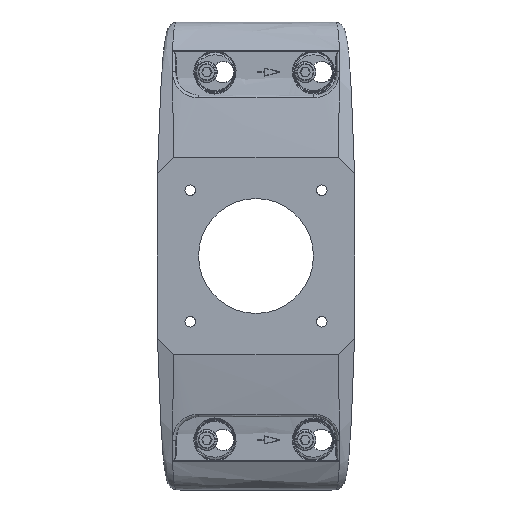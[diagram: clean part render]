
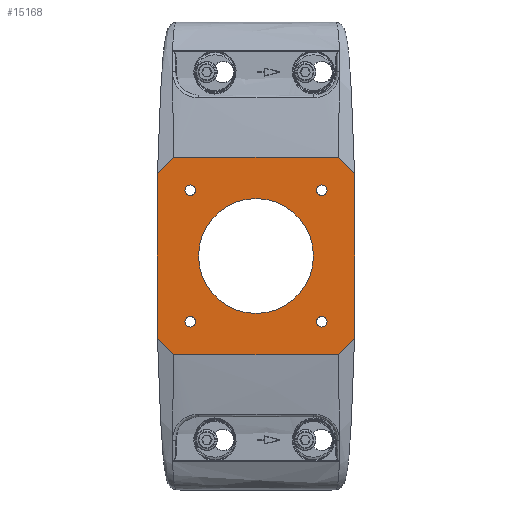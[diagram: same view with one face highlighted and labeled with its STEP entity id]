
A CAD part, front view. The second image highlights one B-rep face of the part: STEP entity #15168.
In plain terms, the highlighted planar face has unit normal (0, -1, 0).
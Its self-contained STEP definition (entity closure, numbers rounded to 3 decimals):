
#2119=DIRECTION('',(-0.707,0.,0.707));
#2120=VECTOR('',#2119,14.142);
#2121=CARTESIAN_POINT('',(-50.,0.,-60.));
#2122=LINE('',#2121,#2120);
#2126=DIRECTION('',(0.,0.,1.));
#2127=VECTOR('',#2126,100.);
#2128=CARTESIAN_POINT('',(-60.,0.,-50.));
#2129=LINE('',#2128,#2127);
#2133=DIRECTION('',(0.707,0.,0.707));
#2134=VECTOR('',#2133,14.142);
#2135=CARTESIAN_POINT('',(-60.,0.,50.));
#2136=LINE('',#2135,#2134);
#2140=DIRECTION('',(1.,0.,0.));
#2141=VECTOR('',#2140,100.);
#2142=CARTESIAN_POINT('',(-50.,0.,60.));
#2143=LINE('',#2142,#2141);
#2147=DIRECTION('',(0.707,0.,-0.707));
#2148=VECTOR('',#2147,14.142);
#2149=CARTESIAN_POINT('',(50.,0.,60.));
#2150=LINE('',#2149,#2148);
#2154=DIRECTION('',(0.,0.,-1.));
#2155=VECTOR('',#2154,100.);
#2156=CARTESIAN_POINT('',(60.,0.,50.));
#2157=LINE('',#2156,#2155);
#2161=DIRECTION('',(-0.707,0.,-0.707));
#2162=VECTOR('',#2161,14.142);
#2163=CARTESIAN_POINT('',(60.,0.,-50.));
#2164=LINE('',#2163,#2162);
#2168=DIRECTION('',(-1.,0.,0.));
#2169=VECTOR('',#2168,100.);
#2170=CARTESIAN_POINT('',(50.,0.,-60.));
#2171=LINE('',#2170,#2169);
#2175=CARTESIAN_POINT('',(-40.,0.,40.));
#2176=DIRECTION('',(0.,-1.,0.));
#2177=DIRECTION('',(0.,0.,-1.));
#2178=AXIS2_PLACEMENT_3D('',#2175,#2176,#2177);
#2183=CARTESIAN_POINT('',(-40.,0.,40.));
#2184=DIRECTION('',(0.,-1.,0.));
#2185=DIRECTION('',(0.,0.,1.));
#2186=AXIS2_PLACEMENT_3D('',#2183,#2184,#2185);
#2191=CARTESIAN_POINT('',(40.,0.,40.));
#2192=DIRECTION('',(0.,-1.,0.));
#2193=DIRECTION('',(0.,0.,-1.));
#2194=AXIS2_PLACEMENT_3D('',#2191,#2192,#2193);
#2199=CARTESIAN_POINT('',(40.,0.,40.));
#2200=DIRECTION('',(0.,-1.,0.));
#2201=DIRECTION('',(0.,0.,1.));
#2202=AXIS2_PLACEMENT_3D('',#2199,#2200,#2201);
#2207=CARTESIAN_POINT('',(-40.,0.,-40.));
#2208=DIRECTION('',(0.,-1.,0.));
#2209=DIRECTION('',(0.,0.,-1.));
#2210=AXIS2_PLACEMENT_3D('',#2207,#2208,#2209);
#2215=CARTESIAN_POINT('',(-40.,0.,-40.));
#2216=DIRECTION('',(0.,-1.,0.));
#2217=DIRECTION('',(0.,0.,1.));
#2218=AXIS2_PLACEMENT_3D('',#2215,#2216,#2217);
#2223=CARTESIAN_POINT('',(40.,0.,-40.));
#2224=DIRECTION('',(0.,-1.,0.));
#2225=DIRECTION('',(0.,0.,-1.));
#2226=AXIS2_PLACEMENT_3D('',#2223,#2224,#2225);
#2231=CARTESIAN_POINT('',(40.,0.,-40.));
#2232=DIRECTION('',(0.,-1.,0.));
#2233=DIRECTION('',(0.,0.,1.));
#2234=AXIS2_PLACEMENT_3D('',#2231,#2232,#2233);
#2239=CARTESIAN_POINT('',(0.,0.,0.));
#2240=DIRECTION('',(0.,-1.,0.));
#2241=DIRECTION('',(0.,0.,-1.));
#2242=AXIS2_PLACEMENT_3D('',#2239,#2240,#2241);
#2247=CARTESIAN_POINT('',(0.,0.,0.));
#2248=DIRECTION('',(0.,-1.,0.));
#2249=DIRECTION('',(0.,0.,1.));
#2250=AXIS2_PLACEMENT_3D('',#2247,#2248,#2249);
#13702=CARTESIAN_POINT('',(50.,0.,60.));
#13703=CARTESIAN_POINT('',(60.,0.,50.));
#13704=VERTEX_POINT('',#13702);
#13705=VERTEX_POINT('',#13703);
#13706=CARTESIAN_POINT('',(60.,0.,-50.));
#13707=VERTEX_POINT('',#13706);
#13708=CARTESIAN_POINT('',(50.,0.,-60.));
#13709=VERTEX_POINT('',#13708);
#13710=CARTESIAN_POINT('',(-50.,0.,-60.));
#13711=VERTEX_POINT('',#13710);
#13712=CARTESIAN_POINT('',(-60.,0.,-50.));
#13713=VERTEX_POINT('',#13712);
#13714=CARTESIAN_POINT('',(-60.,0.,50.));
#13715=VERTEX_POINT('',#13714);
#13716=CARTESIAN_POINT('',(-50.,0.,60.));
#13717=VERTEX_POINT('',#13716);
#13737=CARTESIAN_POINT('',(-40.,0.,36.75));
#13738=CARTESIAN_POINT('',(-40.,0.,43.25));
#13739=VERTEX_POINT('',#13737);
#13740=VERTEX_POINT('',#13738);
#13745=CARTESIAN_POINT('',(40.,0.,36.75));
#13746=CARTESIAN_POINT('',(40.,0.,43.25));
#13747=VERTEX_POINT('',#13745);
#13748=VERTEX_POINT('',#13746);
#13753=CARTESIAN_POINT('',(-40.,0.,-43.25));
#13754=CARTESIAN_POINT('',(-40.,0.,-36.75));
#13755=VERTEX_POINT('',#13753);
#13756=VERTEX_POINT('',#13754);
#13761=CARTESIAN_POINT('',(40.,0.,-43.25));
#13762=CARTESIAN_POINT('',(40.,0.,-36.75));
#13763=VERTEX_POINT('',#13761);
#13764=VERTEX_POINT('',#13762);
#13769=CARTESIAN_POINT('',(0.,0.,-35.));
#13770=CARTESIAN_POINT('',(0.,0.,35.));
#13771=VERTEX_POINT('',#13769);
#13772=VERTEX_POINT('',#13770);
#15115=CARTESIAN_POINT('',(60.,0.,0.));
#15116=DIRECTION('',(0.,1.,0.));
#15117=DIRECTION('',(-1.,0.,0.));
#15118=AXIS2_PLACEMENT_3D('',#15115,#15116,#15117);
#15119=PLANE('',#15118);
#15121=ORIENTED_EDGE('',*,*,#15120,.T.);
#15123=ORIENTED_EDGE('',*,*,#15122,.T.);
#15125=ORIENTED_EDGE('',*,*,#15124,.T.);
#15127=ORIENTED_EDGE('',*,*,#15126,.T.);
#15129=ORIENTED_EDGE('',*,*,#15128,.T.);
#15131=ORIENTED_EDGE('',*,*,#15130,.T.);
#15133=ORIENTED_EDGE('',*,*,#15132,.T.);
#15135=ORIENTED_EDGE('',*,*,#15134,.T.);
#15136=EDGE_LOOP('',(#15121,#15123,#15125,#15127,#15129,#15131,#15133,#15135));
#15137=FACE_OUTER_BOUND('',#15136,.F.);
#15139=ORIENTED_EDGE('',*,*,#15138,.T.);
#15141=ORIENTED_EDGE('',*,*,#15140,.T.);
#15142=EDGE_LOOP('',(#15139,#15141));
#15143=FACE_BOUND('',#15142,.F.);
#15145=ORIENTED_EDGE('',*,*,#15144,.T.);
#15147=ORIENTED_EDGE('',*,*,#15146,.T.);
#15148=EDGE_LOOP('',(#15145,#15147));
#15149=FACE_BOUND('',#15148,.F.);
#15151=ORIENTED_EDGE('',*,*,#15150,.T.);
#15153=ORIENTED_EDGE('',*,*,#15152,.T.);
#15154=EDGE_LOOP('',(#15151,#15153));
#15155=FACE_BOUND('',#15154,.F.);
#15157=ORIENTED_EDGE('',*,*,#15156,.T.);
#15159=ORIENTED_EDGE('',*,*,#15158,.T.);
#15160=EDGE_LOOP('',(#15157,#15159));
#15161=FACE_BOUND('',#15160,.F.);
#15163=ORIENTED_EDGE('',*,*,#15162,.T.);
#15165=ORIENTED_EDGE('',*,*,#15164,.T.);
#15166=EDGE_LOOP('',(#15163,#15165));
#15167=FACE_BOUND('',#15166,.F.);
#2179=CIRCLE('',#2178,3.25);
#2187=CIRCLE('',#2186,3.25);
#2195=CIRCLE('',#2194,3.25);
#2203=CIRCLE('',#2202,3.25);
#2211=CIRCLE('',#2210,3.25);
#2219=CIRCLE('',#2218,3.25);
#2227=CIRCLE('',#2226,3.25);
#2235=CIRCLE('',#2234,3.25);
#2243=CIRCLE('',#2242,35.);
#2251=CIRCLE('',#2250,35.);
#15120=EDGE_CURVE('',#13711,#13713,#2122,.T.);
#15122=EDGE_CURVE('',#13713,#13715,#2129,.T.);
#15124=EDGE_CURVE('',#13715,#13717,#2136,.T.);
#15126=EDGE_CURVE('',#13717,#13704,#2143,.T.);
#15128=EDGE_CURVE('',#13704,#13705,#2150,.T.);
#15130=EDGE_CURVE('',#13705,#13707,#2157,.T.);
#15132=EDGE_CURVE('',#13707,#13709,#2164,.T.);
#15134=EDGE_CURVE('',#13709,#13711,#2171,.T.);
#15138=EDGE_CURVE('',#13739,#13740,#2179,.T.);
#15140=EDGE_CURVE('',#13740,#13739,#2187,.T.);
#15144=EDGE_CURVE('',#13747,#13748,#2195,.T.);
#15146=EDGE_CURVE('',#13748,#13747,#2203,.T.);
#15150=EDGE_CURVE('',#13755,#13756,#2211,.T.);
#15152=EDGE_CURVE('',#13756,#13755,#2219,.T.);
#15156=EDGE_CURVE('',#13763,#13764,#2227,.T.);
#15158=EDGE_CURVE('',#13764,#13763,#2235,.T.);
#15162=EDGE_CURVE('',#13771,#13772,#2243,.T.);
#15164=EDGE_CURVE('',#13772,#13771,#2251,.T.);
#15168=ADVANCED_FACE('',(#15137,#15143,#15149,#15155,#15161,#15167),#15119,.F.);
